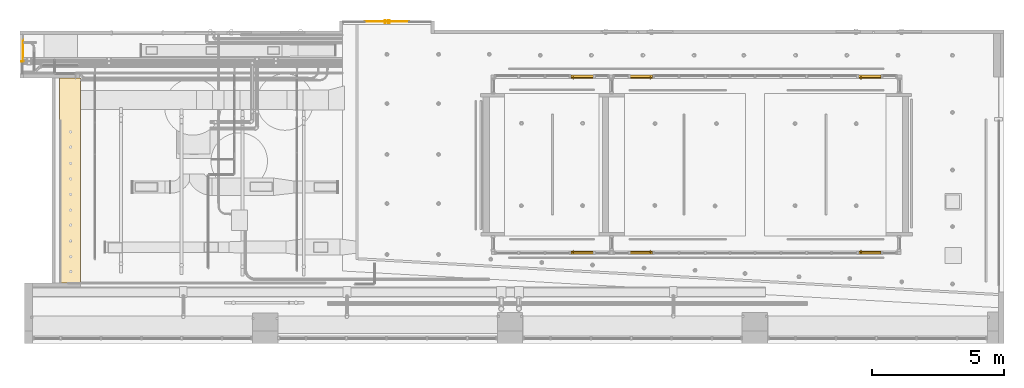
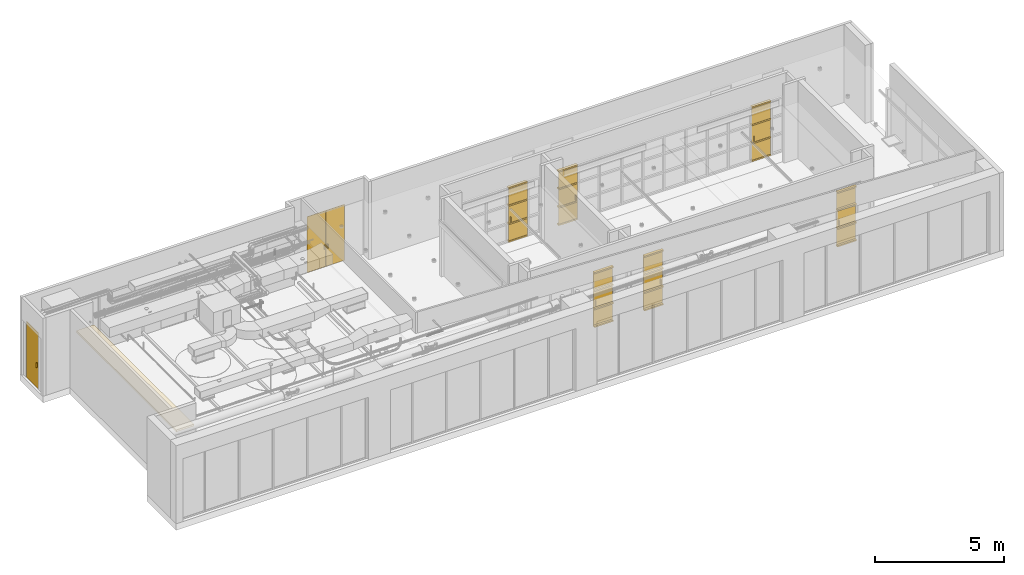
# One storey, part 21 of 108: 8 doors, 1 covering, 6 elements without a shape of their own.
"""IFC4 building model written with IfcOpenShell, lengths in feet."""

from ifc_helpers import new_model, entity, si_unit, converted_unit, derived_unit, direction, frame, frame_2d, origin, origin_2d_with_axis, place, context, subcontext, project, spatial, polyline, rectangle, outline, extrude, source, transform, mapped, material, layer, layer_set, layer_usage, constituent, constituent_set, type_object, type_shapes, element, aggregate, save


model = new_model("IFC4")

# Units and contexts
model_context = context("Model", 3, precision=0.0001, world=origin(), true_north=direction((6.12303176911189e-17, 1.0)))
body_context = subcontext(model_context, "Body", "Model", "MODEL_VIEW")
ifc_project = project(units=[converted_unit("LENGTHUNIT", "FOOT", entity("IfcRatioMeasure", 0.3048), si_unit("LENGTHUNIT", "METRE"), dimensions=[1, 0, 0, 0, 0, 0, 0]), converted_unit("AREAUNIT", "SQUARE FOOT", entity("IfcRatioMeasure", 0.09290304), si_unit("AREAUNIT", "SQUARE_METRE"), dimensions=[2, 0, 0, 0, 0, 0, 0]), converted_unit("VOLUMEUNIT", "CUBIC FOOT", entity("IfcRatioMeasure", 0.028316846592), si_unit("VOLUMEUNIT", "CUBIC_METRE"), dimensions=[3, 0, 0, 0, 0, 0, 0]), converted_unit("PLANEANGLEUNIT", "DEGREE", entity("IfcRatioMeasure", 0.0174532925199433), si_unit("PLANEANGLEUNIT", "RADIAN"), dimensions=[0, 0, 0, 0, 0, 0, 0]), si_unit("MASSUNIT", "GRAM", prefix="KILO"), derived_unit("MASSDENSITYUNIT", [(si_unit("MASSUNIT", "GRAM", prefix="KILO"), 1), (si_unit("LENGTHUNIT", "METRE"), -3)]), si_unit("TIMEUNIT", "SECOND"), si_unit("FREQUENCYUNIT", "HERTZ"), si_unit("THERMODYNAMICTEMPERATUREUNIT", "DEGREE_CELSIUS"), derived_unit("THERMALTRANSMITTANCEUNIT", [(si_unit("MASSUNIT", "GRAM", prefix="KILO"), 1), (si_unit("THERMODYNAMICTEMPERATUREUNIT", "KELVIN"), -1), (si_unit("TIMEUNIT", "SECOND"), -3)]), derived_unit("VOLUMETRICFLOWRATEUNIT", [(si_unit("LENGTHUNIT", "METRE"), 3), (si_unit("TIMEUNIT", "SECOND"), -1)]), si_unit("ELECTRICCURRENTUNIT", "AMPERE"), si_unit("ELECTRICVOLTAGEUNIT", "VOLT"), si_unit("POWERUNIT", "WATT"), si_unit("FORCEUNIT", "NEWTON"), si_unit("ILLUMINANCEUNIT", "LUX"), si_unit("LUMINOUSFLUXUNIT", "LUMEN"), si_unit("LUMINOUSINTENSITYUNIT", "CANDELA"), derived_unit("USERDEFINED", [(si_unit("MASSUNIT", "GRAM", prefix="KILO"), -1), (si_unit("LENGTHUNIT", "METRE"), -2), (si_unit("TIMEUNIT", "SECOND"), 3), (si_unit("LUMINOUSFLUXUNIT", "LUMEN"), 1)]), derived_unit("LINEARVELOCITYUNIT", [(si_unit("LENGTHUNIT", "METRE"), 1), (si_unit("TIMEUNIT", "SECOND"), -1)]), si_unit("PRESSUREUNIT", "PASCAL"), derived_unit("USERDEFINED", [(si_unit("LENGTHUNIT", "METRE"), -2), (si_unit("MASSUNIT", "GRAM", prefix="KILO"), 1), (si_unit("TIMEUNIT", "SECOND"), -2)])], contexts=[model_context])

# Site, building, storey
site_placement = place(None, origin())
site = spatial("IfcSite", under=ifc_project, at=site_placement, Name="Default", CompositionType="ELEMENT")
building_placement = place(site_placement, origin())
building = spatial("IfcBuilding", under=site, at=building_placement, CompositionType="ELEMENT")
storey_placement = place(building_placement, frame((0.0, 0.0, 168.0)))
storey = spatial("IfcBuildingStorey", under=building, at=storey_placement, Name="Level 15", CompositionType="ELEMENT", Elevation=168.0)

# Curtain wall, doors
curtain_wall_type = type_object("IfcCurtainWallType", Name="Curtain Wall:Storefront 02", PredefinedType="NOTDEFINED")
curtain_wall_1_placement = place(storey_placement, frame((0.0, 0.0, -168.0)))
curtain_wall_1 = element("IfcCurtainWall", 1, at=curtain_wall_1_placement, inside=storey, type_object=curtain_wall_type, Name="Curtain Wall:Storefront 02", ObjectType="Curtain Wall:Storefront 02", PredefinedType="NOTDEFINED")
ifc_material_1 = material(Name="Aluminum", Category="Metal")
ifc_constituent_1 = constituent(ifc_material_1, Name="Aluminum", Category="Materials")
ifc_material_2 = material(Name="Wood - Birch - Solid Stained Light Low Gloss", Category="Wood")
ifc_constituent_2 = constituent(ifc_material_2, Name="Wood - Birch - Solid Stained Light Low Gloss", Category="Materials")
ifc_constituent_set_1 = constituent_set(constituents=[ifc_constituent_1, ifc_constituent_2], Name="MaterialConstituentSet")
ifc_constituent_3 = constituent(ifc_material_1, Name="Aluminum", Category="Materials")
ifc_constituent_4 = constituent(ifc_material_2, Name="Wood - Birch - Solid Stained Light Low Gloss", Category="Materials")
ifc_constituent_set_2 = constituent_set(constituents=[ifc_constituent_3, ifc_constituent_4], Name="MaterialConstituentSet")
door_type_1 = type_object("IfcDoorType", Name="Door-Curtain-Wall-Single-Wood", OperationType="NOTDEFINED", ParameterTakesPrecedence=False, PredefinedType="DOOR", material=ifc_constituent_set_2)
shared_shape_1 = source(origin(), body_context, "Body", "SweptSolid", [
    extrude(rectangle(XDim=0.166666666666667, YDim=0.083333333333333, at=origin_2d_with_axis()), frame((-1.10408231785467, 0.0416666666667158, 3.16666666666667), z_axis=(0.0, 0.0, 1.0), x_axis=(0.0, 1.0, 0.0)), (0.0, 0.0, 1.0), 0.75),
    extrude(rectangle(XDim=0.166666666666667, YDim=0.0833333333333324, at=frame_2d((0.0, -1.11022302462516e-16), x_axis=(1.0, 0.0))), frame((-1.10408231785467, 0.250000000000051, 3.16666666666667), z_axis=(0.0, 0.0, 1.0), x_axis=(0.0, -1.0, 0.0)), (0.0, 0.0, 1.0), 0.75),
    extrude(outline(polyline([(-4.26141241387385, -0.253110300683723), (-4.05307908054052, -0.253110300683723), (-4.05307908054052, 0.0504761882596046), (-1.52182908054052, 0.0504761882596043), (-1.52182908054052, -0.253110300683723), (-1.31349574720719, -0.253110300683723), (-1.31349574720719, 0.0504761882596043), (1.31349574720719, 0.0504761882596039), (1.31349574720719, -0.253110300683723), (1.52182908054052, -0.253110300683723), (1.52182908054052, 0.0504761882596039), (4.05307908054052, 0.0504761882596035), (4.05307908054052, -0.253110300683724), (4.26141241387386, -0.253110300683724), (4.26141241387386, 0.146146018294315), (4.05307908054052, 0.146146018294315), (4.05307908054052, 0.0921428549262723), (1.52182908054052, 0.0921428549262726), (1.52182908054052, 0.146146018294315), (1.31349574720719, 0.146146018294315), (1.31349574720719, 0.0921428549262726), (-1.31349574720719, 0.092142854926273), (-1.31349574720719, 0.146146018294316), (-1.52182908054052, 0.146146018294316), (-1.52182908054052, 0.092142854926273), (-4.05307908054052, 0.0921428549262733), (-4.05307908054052, 0.146146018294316), (-4.26141241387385, 0.146146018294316), (-4.26141241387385, -0.253110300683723)])), frame((-1.39574898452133, 0.074523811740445, 4.26141241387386), z_axis=(1.0, 0.0, 0.0), x_axis=(0.0, 0.0, -1.0)), (0.0, 0.0, 1.0), 2.79149796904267),
])
type_shapes(door_type_1, [shared_shape_1])
door_1_placement = place(curtain_wall_1_placement, frame((45.2552862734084, -11.8802703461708, 168.0)))
door_1 = element("IfcDoor", 2, at=door_1_placement, type_object=door_type_1, material=ifc_constituent_set_1, Name="Door-Curtain-Wall-Single-Glass:Door-Curtain-Wall-Single-Wood", ObjectType="Door-Curtain-Wall-Single-Glass:Door-Curtain-Wall-Single-Wood", OperationType="NOTDEFINED", OverallHeight=8.52282482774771, OverallWidth=2.79149796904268, PredefinedType="DOOR", context=body_context, shape_type="MappedRepresentation", body=[
    mapped(shared_shape_1, transform((0.0, 0.0, 0.0), scale=1.0)),
])
ifc_constituent_5 = constituent(ifc_material_1, Name="Aluminum", Category="Materials")
ifc_constituent_6 = constituent(ifc_material_2, Name="Wood - Birch - Solid Stained Light Low Gloss", Category="Materials")
ifc_constituent_set_3 = constituent_set(constituents=[ifc_constituent_5, ifc_constituent_6], Name="MaterialConstituentSet")
ifc_constituent_7 = constituent(ifc_material_1, Name="Aluminum", Category="Materials")
ifc_constituent_8 = constituent(ifc_material_2, Name="Wood - Birch - Solid Stained Light Low Gloss", Category="Materials")
ifc_constituent_set_4 = constituent_set(constituents=[ifc_constituent_7, ifc_constituent_8], Name="MaterialConstituentSet")
door_type_2 = type_object("IfcDoorType", Name="Door-Curtain-Wall-Single-Wood", OperationType="NOTDEFINED", ParameterTakesPrecedence=False, PredefinedType="DOOR", material=ifc_constituent_set_4)
shared_shape_2 = source(origin(), body_context, "Body", "SweptSolid", [
    extrude(rectangle(XDim=0.083333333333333, YDim=0.166666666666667, at=origin_2d_with_axis()), frame((-1.10416666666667, -0.0416666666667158, 3.16666666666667), z_axis=(0.0, 0.0, 1.0), x_axis=(-1.0, 0.0, 0.0)), (0.0, 0.0, 1.0), 0.75),
    extrude(rectangle(XDim=0.0833333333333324, YDim=0.166666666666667, at=frame_2d((-1.11022302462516e-16, 0.0), x_axis=(1.0, 0.0))), frame((-1.10416666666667, -0.250000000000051, 3.16666666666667)), (0.0, 0.0, 1.0), 0.75),
    extrude(outline(polyline([(-0.253110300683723, -4.26141241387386), (0.146146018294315, -4.26141241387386), (0.146146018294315, -4.05307908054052), (0.0921428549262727, -4.05307908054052), (0.0921428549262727, -1.52182908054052), (0.146146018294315, -1.52182908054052), (0.146146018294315, -1.31349574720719), (0.0921428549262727, -1.31349574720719), (0.0921428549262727, 1.31349574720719), (0.146146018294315, 1.31349574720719), (0.146146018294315, 1.52182908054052), (0.0921428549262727, 1.52182908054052), (0.0921428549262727, 4.05307908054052), (0.146146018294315, 4.05307908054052), (0.146146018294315, 4.26141241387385), (-0.253110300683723, 4.26141241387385), (-0.253110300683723, 4.05307908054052), (0.050476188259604, 4.05307908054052), (0.050476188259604, 1.52182908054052), (-0.253110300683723, 1.52182908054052), (-0.253110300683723, 1.31349574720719), (0.050476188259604, 1.31349574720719), (0.050476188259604, -1.31349574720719), (-0.253110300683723, -1.31349574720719), (-0.253110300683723, -1.52182908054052), (0.050476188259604, -1.52182908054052), (0.050476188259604, -4.05307908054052), (-0.253110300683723, -4.05307908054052), (-0.253110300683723, -4.26141241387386)])), frame((-1.39583333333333, -0.0745238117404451, 4.26141241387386), z_axis=(1.0, 0.0, 0.0), x_axis=(0.0, -1.0, 0.0)), (0.0, 0.0, 1.0), 2.79166666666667),
])
type_shapes(door_type_2, [shared_shape_2])
door_2_placement = place(curtain_wall_1_placement, frame((16.922037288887, -11.8802703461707, 168.0), z_axis=(0.0, 0.0, 1.0), x_axis=(-1.0, 0.0, 0.0)))
door_2 = element("IfcDoor", 3, at=door_2_placement, type_object=door_type_2, material=ifc_constituent_set_3, Name="Door-Curtain-Wall-Single-Glass:Door-Curtain-Wall-Single-Wood", ObjectType="Door-Curtain-Wall-Single-Glass:Door-Curtain-Wall-Single-Wood", OperationType="NOTDEFINED", OverallHeight=8.52282482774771, OverallWidth=2.79166666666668, PredefinedType="DOOR", context=body_context, shape_type="MappedRepresentation", body=[
    mapped(shared_shape_2, transform((0.0, 0.0, 0.0), scale=1.0)),
])
aggregate(curtain_wall_1, [door_1, door_2])

# Curtain wall, door
curtain_wall_2_placement = place(storey_placement, frame((0.0, 0.0, -168.0)))
curtain_wall_2 = element("IfcCurtainWall", 4, at=curtain_wall_2_placement, inside=storey, type_object=curtain_wall_type, Name="Curtain Wall:Storefront 02", ObjectType="Curtain Wall:Storefront 02", PredefinedType="NOTDEFINED")
ifc_constituent_9 = constituent(ifc_material_1, Name="Aluminum", Category="Materials")
ifc_constituent_10 = constituent(ifc_material_2, Name="Wood - Birch - Solid Stained Light Low Gloss", Category="Materials")
ifc_constituent_set_5 = constituent_set(constituents=[ifc_constituent_9, ifc_constituent_10], Name="MaterialConstituentSet")
ifc_constituent_11 = constituent(ifc_material_1, Name="Aluminum", Category="Materials")
ifc_constituent_12 = constituent(ifc_material_2, Name="Wood - Birch - Solid Stained Light Low Gloss", Category="Materials")
ifc_constituent_set_6 = constituent_set(constituents=[ifc_constituent_11, ifc_constituent_12], Name="MaterialConstituentSet")
door_type_3 = type_object("IfcDoorType", Name="Door-Curtain-Wall-Single-Wood", OperationType="NOTDEFINED", ParameterTakesPrecedence=False, PredefinedType="DOOR", material=ifc_constituent_set_6)
shared_shape_3 = source(origin(), body_context, "Body", "SweptSolid", [
    extrude(rectangle(XDim=0.166666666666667, YDim=0.083333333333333, at=origin_2d_with_axis()), frame((-1.10416666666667, 0.0416666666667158, 3.16666666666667), z_axis=(0.0, 0.0, 1.0), x_axis=(0.0, 1.0, 0.0)), (0.0, 0.0, 1.0), 0.75),
    extrude(rectangle(XDim=0.166666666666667, YDim=0.0833333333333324, at=frame_2d((0.0, -1.11022302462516e-16), x_axis=(1.0, 0.0))), frame((-1.10416666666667, 0.250000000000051, 3.16666666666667), z_axis=(0.0, 0.0, 1.0), x_axis=(0.0, -1.0, 0.0)), (0.0, 0.0, 1.0), 0.75),
    extrude(outline(polyline([(-4.26141241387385, -0.253110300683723), (-4.05307908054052, -0.253110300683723), (-4.05307908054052, 0.0504761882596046), (-1.52182908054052, 0.0504761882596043), (-1.52182908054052, -0.253110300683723), (-1.31349574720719, -0.253110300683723), (-1.31349574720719, 0.0504761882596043), (1.31349574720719, 0.0504761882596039), (1.31349574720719, -0.253110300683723), (1.52182908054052, -0.253110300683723), (1.52182908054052, 0.0504761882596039), (4.05307908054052, 0.0504761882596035), (4.05307908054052, -0.253110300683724), (4.26141241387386, -0.253110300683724), (4.26141241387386, 0.146146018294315), (4.05307908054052, 0.146146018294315), (4.05307908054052, 0.0921428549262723), (1.52182908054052, 0.0921428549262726), (1.52182908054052, 0.146146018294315), (1.31349574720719, 0.146146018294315), (1.31349574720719, 0.0921428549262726), (-1.31349574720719, 0.092142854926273), (-1.31349574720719, 0.146146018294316), (-1.52182908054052, 0.146146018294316), (-1.52182908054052, 0.092142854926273), (-4.05307908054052, 0.0921428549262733), (-4.05307908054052, 0.146146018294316), (-4.26141241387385, 0.146146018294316), (-4.26141241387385, -0.253110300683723)])), frame((-1.39583333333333, 0.074523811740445, 4.26141241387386), z_axis=(1.0, 0.0, 0.0), x_axis=(0.0, 0.0, -1.0)), (0.0, 0.0, 1.0), 2.79166666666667),
])
type_shapes(door_type_3, [shared_shape_3])
door_3_placement = place(curtain_wall_2_placement, frame((9.5887039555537, -11.8802703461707, 168.0)))
door_3 = element("IfcDoor", 5, at=door_3_placement, type_object=door_type_3, material=ifc_constituent_set_5, Name="Door-Curtain-Wall-Single-Glass:Door-Curtain-Wall-Single-Wood", ObjectType="Door-Curtain-Wall-Single-Glass:Door-Curtain-Wall-Single-Wood", OperationType="NOTDEFINED", OverallHeight=8.52282482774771, OverallWidth=2.79166666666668, PredefinedType="DOOR", context=body_context, shape_type="MappedRepresentation", body=[
    mapped(shared_shape_3, transform((0.0, 0.0, 0.0), scale=1.0)),
])
aggregate(curtain_wall_2, [door_3])

# Curtain wall, doors
curtain_wall_3_placement = place(storey_placement, frame((0.0, 0.0, -168.0)))
curtain_wall_3 = element("IfcCurtainWall", 6, at=curtain_wall_3_placement, inside=storey, type_object=curtain_wall_type, Name="Curtain Wall:Storefront 02", ObjectType="Curtain Wall:Storefront 02", PredefinedType="NOTDEFINED")
ifc_constituent_13 = constituent(ifc_material_1, Name="Aluminum", Category="Materials")
ifc_constituent_14 = constituent(ifc_material_2, Name="Wood - Birch - Solid Stained Light Low Gloss", Category="Materials")
ifc_constituent_set_7 = constituent_set(constituents=[ifc_constituent_13, ifc_constituent_14], Name="MaterialConstituentSet")
ifc_constituent_15 = constituent(ifc_material_1, Name="Aluminum", Category="Materials")
ifc_constituent_16 = constituent(ifc_material_2, Name="Wood - Birch - Solid Stained Light Low Gloss", Category="Materials")
ifc_constituent_set_8 = constituent_set(constituents=[ifc_constituent_15, ifc_constituent_16], Name="MaterialConstituentSet")
door_type_4 = type_object("IfcDoorType", Name="Door-Curtain-Wall-Single-Wood", OperationType="NOTDEFINED", ParameterTakesPrecedence=False, PredefinedType="DOOR", material=ifc_constituent_set_8)
shared_shape_4 = source(origin(), body_context, "Body", "SweptSolid", [
    extrude(rectangle(XDim=0.083333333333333, YDim=0.166666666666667, at=origin_2d_with_axis()), frame((-1.10408231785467, -0.0416666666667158, 3.16666666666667), z_axis=(0.0, 0.0, 1.0), x_axis=(-1.0, 0.0, 0.0)), (0.0, 0.0, 1.0), 0.75),
    extrude(rectangle(XDim=0.0833333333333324, YDim=0.166666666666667, at=frame_2d((-1.11022302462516e-16, 0.0), x_axis=(1.0, 0.0))), frame((-1.10408231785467, -0.250000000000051, 3.16666666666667)), (0.0, 0.0, 1.0), 0.75),
    extrude(outline(polyline([(-0.253110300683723, -4.26141241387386), (0.146146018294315, -4.26141241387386), (0.146146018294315, -4.05307908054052), (0.0921428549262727, -4.05307908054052), (0.0921428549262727, -1.52182908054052), (0.146146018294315, -1.52182908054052), (0.146146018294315, -1.31349574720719), (0.0921428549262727, -1.31349574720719), (0.0921428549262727, 1.31349574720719), (0.146146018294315, 1.31349574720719), (0.146146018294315, 1.52182908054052), (0.0921428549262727, 1.52182908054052), (0.0921428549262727, 4.05307908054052), (0.146146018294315, 4.05307908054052), (0.146146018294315, 4.26141241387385), (-0.253110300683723, 4.26141241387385), (-0.253110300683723, 4.05307908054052), (0.050476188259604, 4.05307908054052), (0.050476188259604, 1.52182908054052), (-0.253110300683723, 1.52182908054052), (-0.253110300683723, 1.31349574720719), (0.050476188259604, 1.31349574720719), (0.050476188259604, -1.31349574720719), (-0.253110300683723, -1.31349574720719), (-0.253110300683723, -1.52182908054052), (0.050476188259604, -1.52182908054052), (0.050476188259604, -4.05307908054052), (-0.253110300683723, -4.05307908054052), (-0.253110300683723, -4.26141241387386)])), frame((-1.39574898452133, -0.0745238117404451, 4.26141241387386), z_axis=(1.0, 0.0, 0.0), x_axis=(0.0, -1.0, 0.0)), (0.0, 0.0, 1.0), 2.79149796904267),
])
type_shapes(door_type_4, [shared_shape_4])
door_4_placement = place(curtain_wall_3_placement, frame((45.2552862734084, 9.96064959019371, 168.0)))
door_4 = element("IfcDoor", 7, at=door_4_placement, type_object=door_type_4, material=ifc_constituent_set_7, Name="Door-Curtain-Wall-Single-Glass:Door-Curtain-Wall-Single-Wood", ObjectType="Door-Curtain-Wall-Single-Glass:Door-Curtain-Wall-Single-Wood", OperationType="NOTDEFINED", OverallHeight=8.52282482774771, OverallWidth=2.79149796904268, PredefinedType="DOOR", context=body_context, shape_type="MappedRepresentation", body=[
    mapped(shared_shape_4, transform((0.0, 0.0, 0.0), scale=1.0)),
])
ifc_constituent_17 = constituent(ifc_material_1, Name="Aluminum", Category="Materials")
ifc_constituent_18 = constituent(ifc_material_2, Name="Wood - Birch - Solid Stained Light Low Gloss", Category="Materials")
ifc_constituent_set_9 = constituent_set(constituents=[ifc_constituent_17, ifc_constituent_18], Name="MaterialConstituentSet")
ifc_constituent_19 = constituent(ifc_material_1, Name="Aluminum", Category="Materials")
ifc_constituent_20 = constituent(ifc_material_2, Name="Wood - Birch - Solid Stained Light Low Gloss", Category="Materials")
ifc_constituent_set_10 = constituent_set(constituents=[ifc_constituent_19, ifc_constituent_20], Name="MaterialConstituentSet")
door_type_5 = type_object("IfcDoorType", Name="Door-Curtain-Wall-Single-Wood", OperationType="NOTDEFINED", ParameterTakesPrecedence=False, PredefinedType="DOOR", material=ifc_constituent_set_10)
shared_shape_5 = source(origin(), body_context, "Body", "SweptSolid", [
    extrude(rectangle(XDim=0.166666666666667, YDim=0.083333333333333, at=origin_2d_with_axis()), frame((-1.10416666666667, 0.0416666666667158, 3.16666666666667), z_axis=(0.0, 0.0, 1.0), x_axis=(0.0, 1.0, 0.0)), (0.0, 0.0, 1.0), 0.75),
    extrude(rectangle(XDim=0.166666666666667, YDim=0.0833333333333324, at=frame_2d((0.0, -1.11022302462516e-16), x_axis=(1.0, 0.0))), frame((-1.10416666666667, 0.250000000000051, 3.16666666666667), z_axis=(0.0, 0.0, 1.0), x_axis=(0.0, -1.0, 0.0)), (0.0, 0.0, 1.0), 0.75),
    extrude(outline(polyline([(-4.26141241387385, -0.253110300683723), (-4.05307908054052, -0.253110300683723), (-4.05307908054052, 0.0504761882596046), (-1.52182908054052, 0.0504761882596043), (-1.52182908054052, -0.253110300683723), (-1.31349574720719, -0.253110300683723), (-1.31349574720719, 0.0504761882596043), (1.31349574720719, 0.0504761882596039), (1.31349574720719, -0.253110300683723), (1.52182908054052, -0.253110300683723), (1.52182908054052, 0.0504761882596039), (4.05307908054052, 0.0504761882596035), (4.05307908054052, -0.253110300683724), (4.26141241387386, -0.253110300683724), (4.26141241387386, 0.146146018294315), (4.05307908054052, 0.146146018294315), (4.05307908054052, 0.0921428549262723), (1.52182908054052, 0.0921428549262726), (1.52182908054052, 0.146146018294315), (1.31349574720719, 0.146146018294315), (1.31349574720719, 0.0921428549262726), (-1.31349574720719, 0.092142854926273), (-1.31349574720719, 0.146146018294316), (-1.52182908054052, 0.146146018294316), (-1.52182908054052, 0.092142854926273), (-4.05307908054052, 0.0921428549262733), (-4.05307908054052, 0.146146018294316), (-4.26141241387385, 0.146146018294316), (-4.26141241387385, -0.253110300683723)])), frame((-1.39583333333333, 0.074523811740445, 4.26141241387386), z_axis=(1.0, 0.0, 0.0), x_axis=(0.0, 0.0, -1.0)), (0.0, 0.0, 1.0), 2.79166666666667),
])
type_shapes(door_type_5, [shared_shape_5])
door_5_placement = place(curtain_wall_3_placement, frame((16.9220372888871, 9.9606495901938, 168.0), z_axis=(0.0, 0.0, 1.0), x_axis=(-1.0, 0.0, 0.0)))
door_5 = element("IfcDoor", 8, at=door_5_placement, type_object=door_type_5, material=ifc_constituent_set_9, Name="Door-Curtain-Wall-Single-Glass:Door-Curtain-Wall-Single-Wood", ObjectType="Door-Curtain-Wall-Single-Glass:Door-Curtain-Wall-Single-Wood", OperationType="NOTDEFINED", OverallHeight=8.52282482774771, OverallWidth=2.79166666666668, PredefinedType="DOOR", context=body_context, shape_type="MappedRepresentation", body=[
    mapped(shared_shape_5, transform((0.0, 0.0, 0.0), scale=1.0)),
])
aggregate(curtain_wall_3, [door_4, door_5])

# Curtain wall, door
curtain_wall_4_placement = place(storey_placement, frame((0.0, 0.0, -168.0)))
curtain_wall_4 = element("IfcCurtainWall", 9, at=curtain_wall_4_placement, inside=storey, type_object=curtain_wall_type, Name="Curtain Wall:Storefront 02", ObjectType="Curtain Wall:Storefront 02", PredefinedType="NOTDEFINED")
ifc_constituent_21 = constituent(ifc_material_1, Name="Aluminum", Category="Materials")
ifc_constituent_22 = constituent(ifc_material_2, Name="Wood - Birch - Solid Stained Light Low Gloss", Category="Materials")
ifc_constituent_set_11 = constituent_set(constituents=[ifc_constituent_21, ifc_constituent_22], Name="MaterialConstituentSet")
ifc_constituent_23 = constituent(ifc_material_1, Name="Aluminum", Category="Materials")
ifc_constituent_24 = constituent(ifc_material_2, Name="Wood - Birch - Solid Stained Light Low Gloss", Category="Materials")
ifc_constituent_set_12 = constituent_set(constituents=[ifc_constituent_23, ifc_constituent_24], Name="MaterialConstituentSet")
door_type_6 = type_object("IfcDoorType", Name="Door-Curtain-Wall-Single-Wood", OperationType="NOTDEFINED", ParameterTakesPrecedence=False, PredefinedType="DOOR", material=ifc_constituent_set_12)
shared_shape_6 = source(origin(), body_context, "Body", "SweptSolid", [
    extrude(rectangle(XDim=0.083333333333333, YDim=0.166666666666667, at=origin_2d_with_axis()), frame((-1.10416666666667, -0.0416666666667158, 3.16666666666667), z_axis=(0.0, 0.0, 1.0), x_axis=(-1.0, 0.0, 0.0)), (0.0, 0.0, 1.0), 0.75),
    extrude(rectangle(XDim=0.0833333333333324, YDim=0.166666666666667, at=frame_2d((-1.11022302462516e-16, 0.0), x_axis=(1.0, 0.0))), frame((-1.10416666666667, -0.250000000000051, 3.16666666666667)), (0.0, 0.0, 1.0), 0.75),
    extrude(outline(polyline([(-0.253110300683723, -4.26141241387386), (0.146146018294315, -4.26141241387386), (0.146146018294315, -4.05307908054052), (0.0921428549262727, -4.05307908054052), (0.0921428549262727, -1.52182908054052), (0.146146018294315, -1.52182908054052), (0.146146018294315, -1.31349574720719), (0.0921428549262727, -1.31349574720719), (0.0921428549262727, 1.31349574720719), (0.146146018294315, 1.31349574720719), (0.146146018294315, 1.52182908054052), (0.0921428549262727, 1.52182908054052), (0.0921428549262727, 4.05307908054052), (0.146146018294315, 4.05307908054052), (0.146146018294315, 4.26141241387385), (-0.253110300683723, 4.26141241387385), (-0.253110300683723, 4.05307908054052), (0.050476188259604, 4.05307908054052), (0.050476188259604, 1.52182908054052), (-0.253110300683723, 1.52182908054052), (-0.253110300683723, 1.31349574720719), (0.050476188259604, 1.31349574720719), (0.050476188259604, -1.31349574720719), (-0.253110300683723, -1.31349574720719), (-0.253110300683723, -1.52182908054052), (0.050476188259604, -1.52182908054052), (0.050476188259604, -4.05307908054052), (-0.253110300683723, -4.05307908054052), (-0.253110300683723, -4.26141241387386)])), frame((-1.39583333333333, -0.0745238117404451, 4.26141241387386), z_axis=(1.0, 0.0, 0.0), x_axis=(0.0, -1.0, 0.0)), (0.0, 0.0, 1.0), 2.79166666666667),
])
type_shapes(door_type_6, [shared_shape_6])
door_6_placement = place(curtain_wall_4_placement, frame((9.58870395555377, 9.96064959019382, 168.0)))
door_6 = element("IfcDoor", 10, at=door_6_placement, type_object=door_type_6, material=ifc_constituent_set_11, Name="Door-Curtain-Wall-Single-Glass:Door-Curtain-Wall-Single-Wood", ObjectType="Door-Curtain-Wall-Single-Glass:Door-Curtain-Wall-Single-Wood", OperationType="NOTDEFINED", OverallHeight=8.52282482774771, OverallWidth=2.79166666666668, PredefinedType="DOOR", context=body_context, shape_type="MappedRepresentation", body=[
    mapped(shared_shape_6, transform((0.0, 0.0, 0.0), scale=1.0)),
])
aggregate(curtain_wall_4, [door_6])

curtain_wall_5_placement = place(storey_placement, frame((0.0, 0.0, -168.0)))
curtain_wall_5 = element("IfcCurtainWall", 11, at=curtain_wall_5_placement, inside=storey, type_object=curtain_wall_type, Name="Curtain Wall:Storefront 02", ObjectType="Curtain Wall:Storefront 02", PredefinedType="NOTDEFINED")
ifc_material_3 = material(Name="Glass", Category="Glass")
ifc_constituent_25 = constituent(ifc_material_3, Name="Glass", Category="Materials")
ifc_constituent_26 = constituent(ifc_material_1, Name="Aluminum", Category="Materials")
ifc_constituent_set_13 = constituent_set(constituents=[ifc_constituent_25, ifc_constituent_26], Name="MaterialConstituentSet")
ifc_constituent_27 = constituent(ifc_material_3, Name="Glass", Category="Materials")
ifc_constituent_28 = constituent(ifc_material_1, Name="Aluminum", Category="Materials")
ifc_constituent_set_14 = constituent_set(constituents=[ifc_constituent_27, ifc_constituent_28], Name="MaterialConstituentSet")
door_type_7 = type_object("IfcDoorType", Name="Door-Curtain-Wall-Single-Wood", OperationType="NOTDEFINED", ParameterTakesPrecedence=False, PredefinedType="DOOR", material=ifc_constituent_set_14)
shared_shape_7 = source(origin(), body_context, "Body", "SweptSolid", [
    extrude(rectangle(XDim=0.0416666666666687, YDim=3.0, at=frame_2d((-1.38777878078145e-17, -2.22044604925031e-16), x_axis=(1.0, 0.0))), frame((0.0, -0.145833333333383, 0.0), z_axis=(0.0, 0.0, 1.0), x_axis=(0.0, 1.0, 0.0)), (0.0, 0.0, 1.0), 8.66397850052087),
    extrude(rectangle(XDim=0.083333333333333, YDim=0.166666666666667, at=origin_2d_with_axis()), frame((-1.20833333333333, -0.0416666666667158, 3.16666666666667), z_axis=(0.0, 0.0, 1.0), x_axis=(-1.0, 0.0, 0.0)), (0.0, 0.0, 1.0), 0.75),
    extrude(rectangle(XDim=0.0833333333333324, YDim=0.166666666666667, at=frame_2d((-1.11022302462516e-16, 0.0), x_axis=(1.0, 0.0))), frame((-1.20833333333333, -0.250000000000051, 3.16666666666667)), (0.0, 0.0, 1.0), 0.75),
])
type_shapes(door_type_7, [shared_shape_7])
door_7_placement = place(curtain_wall_5_placement, frame((-59.8798400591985, 13.0453577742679, 168.0), z_axis=(0.0, 0.0, 1.0), x_axis=(0.0, 1.0, 0.0)))
door_7 = element("IfcDoor", 12, at=door_7_placement, type_object=door_type_7, material=ifc_constituent_set_13, Name="Single-Glass Door:Door-Curtain-Wall-Single-Wood", ObjectType="Single-Glass Door:Door-Curtain-Wall-Single-Wood", OperationType="NOTDEFINED", OverallHeight=8.66397850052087, OverallWidth=3.00000000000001, PredefinedType="DOOR", context=body_context, shape_type="MappedRepresentation", body=[
    mapped(shared_shape_7, transform((0.0, 0.0, 0.0), scale=1.0)),
])
aggregate(curtain_wall_5, [door_7])

curtain_wall_6_placement = place(storey_placement, frame((0.0, 0.0, -168.0)))
curtain_wall_6 = element("IfcCurtainWall", 13, at=curtain_wall_6_placement, inside=storey, type_object=curtain_wall_type, Name="Curtain Wall:Storefront 02", ObjectType="Curtain Wall:Storefront 02", PredefinedType="NOTDEFINED")
ifc_constituent_29 = constituent(ifc_material_3, Name="Glass", Category="Materials")
ifc_constituent_30 = constituent(ifc_material_1, Name="Aluminum", Category="Materials")
ifc_constituent_set_15 = constituent_set(constituents=[ifc_constituent_29, ifc_constituent_30], Name="MaterialConstituentSet")
ifc_constituent_31 = constituent(ifc_material_3, Name="Glass", Category="Materials")
ifc_constituent_32 = constituent(ifc_material_1, Name="Aluminum", Category="Materials")
ifc_constituent_set_16 = constituent_set(constituents=[ifc_constituent_31, ifc_constituent_32], Name="MaterialConstituentSet")
door_type_8 = type_object("IfcDoorType", Name="M_Door-Curtain-Wall-Double-Glass", OperationType="NOTDEFINED", ParameterTakesPrecedence=False, PredefinedType="DOOR", material=ifc_constituent_set_16)
shared_shape_8 = source(origin(), body_context, "Body", "SweptSolid", [
    extrude(rectangle(XDim=0.0625000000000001, YDim=2.74486745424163, at=origin_2d_with_axis()), frame((-1.37756627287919, 0.135416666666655, 0.0), z_axis=(0.0, 0.0, 1.0), x_axis=(0.0, 1.0, 0.0)), (0.0, 0.0, 1.0), 8.66397850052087),
    extrude(rectangle(XDim=0.0625, YDim=2.74471587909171, at=origin_2d_with_axis()), frame((1.37764206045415, 0.135416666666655, 0.0), z_axis=(0.0, 0.0, 1.0), x_axis=(0.0, 1.0, 0.0)), (0.0, 0.0, 1.0), 8.66397850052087),
    extrude(outline(polyline([(-0.0625000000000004, -0.0555555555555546), (0.104166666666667, -0.0555555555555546), (0.104166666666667, -0.0347222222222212), (-0.041666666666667, -0.0347222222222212), (-0.041666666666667, 0.0902777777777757), (-0.0625000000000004, 0.0902777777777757), (-0.0625000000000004, -0.0555555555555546)])), frame((0.222298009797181, 0.270833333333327, 2.83333333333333), z_axis=(0.0, 0.0, 1.0), x_axis=(0.0, -1.0, 0.0)), (0.0, 0.0, 1.0), 0.666666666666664),
    extrude(outline(polyline([(-0.0555555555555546, -0.0624999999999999), (0.0902777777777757, -0.0624999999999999), (0.0902777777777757, -0.0416666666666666), (-0.0347222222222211, -0.0416666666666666), (-0.0347222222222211, 0.104166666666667), (-0.0555555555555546, 0.104166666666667), (-0.0555555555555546, -0.0624999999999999)])), frame((-0.222146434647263, 0.270833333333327, 2.83333333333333), z_axis=(0.0, 0.0, 1.0), x_axis=(-1.0, 0.0, 0.0)), (0.0, 0.0, 1.0), 0.666666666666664),
    extrude(outline(polyline([(-0.0625000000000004, -0.0555555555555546), (0.104166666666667, -0.0555555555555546), (0.104166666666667, -0.0347222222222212), (-0.0416666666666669, -0.0347222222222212), (-0.0416666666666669, 0.0902777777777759), (-0.0625000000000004, 0.0902777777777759), (-0.0625000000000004, -0.0555555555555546)])), frame((-0.222146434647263, 0.0, 2.83333333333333), z_axis=(0.0, 0.0, 1.0), x_axis=(0.0, 1.0, 0.0)), (0.0, 0.0, 1.0), 0.666666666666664),
    extrude(outline(polyline([(-0.0555555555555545, -0.0625000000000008), (0.0902777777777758, -0.0625000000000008), (0.0902777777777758, -0.0416666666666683), (-0.0347222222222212, -0.0416666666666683), (-0.0347222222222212, 0.104166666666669), (-0.0555555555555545, 0.104166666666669), (-0.0555555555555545, -0.0625000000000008)])), frame((0.22229800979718, 0.0, 2.83333333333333)), (0.0, 0.0, 1.0), 0.666666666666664),
])
type_shapes(door_type_8, [shared_shape_8])
door_8_placement = place(curtain_wall_6_placement, frame((-14.5896144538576, 16.641758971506, 168.0)))
door_8 = element("IfcDoor", 14, at=door_8_placement, type_object=door_type_8, material=ifc_constituent_set_15, Name="M_Door-Curtain-Wall-Double-Glass:M_Door-Curtain-Wall-Double-Glass", ObjectType="M_Door-Curtain-Wall-Double-Glass:M_Door-Curtain-Wall-Double-Glass", OperationType="NOTDEFINED", OverallHeight=8.67006545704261, OverallWidth=5.50000000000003, PredefinedType="DOOR", context=body_context, shape_type="MappedRepresentation", body=[
    mapped(shared_shape_8, transform((0.0, 0.0, 0.0), scale=1.0)),
])
aggregate(curtain_wall_6, [door_8])

# Covering
ifc_material_4 = material(Name="Metal Stud Layer", Category="Metal")
ifc_layer = layer(ifc_material_4, 0.302083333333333, Name="Metal Stud Layer", Category="Metal")
ifc_layer_set = layer_set([ifc_layer], Name="Compound Ceiling:GWB on Mtl. Stud")
ifc_layer_usage = layer_usage(ifc_layer_set, "AXIS3", "POSITIVE", 0.0)
covering_type = type_object("IfcCoveringType", Name="Compound Ceiling:GWB on Mtl. Stud", PredefinedType="CEILING")
covering_placement = place(storey_placement, frame((-55.1836644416, -15.6092556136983, 8.18749999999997)))
element("IfcCovering", 15, at=covering_placement, inside=storey, type_object=covering_type, material=ifc_layer_usage, Name="Compound Ceiling:GWB on Mtl. Stud", ObjectType="Compound Ceiling:GWB on Mtl. Stud", PredefinedType="CEILING", context=body_context, shape_type="SweptSolid", body=[
    extrude(rectangle(XDim=2.56881830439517, YDim=25.4046133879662, at=frame_2d((-3.5527136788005e-15, 0.0), x_axis=(1.0, 0.0))), frame((1.28440915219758, 12.7023066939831, 0.0)), (0.0, 0.0, 1.0), 0.302083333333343),
])

save(model, "model.ifc")
